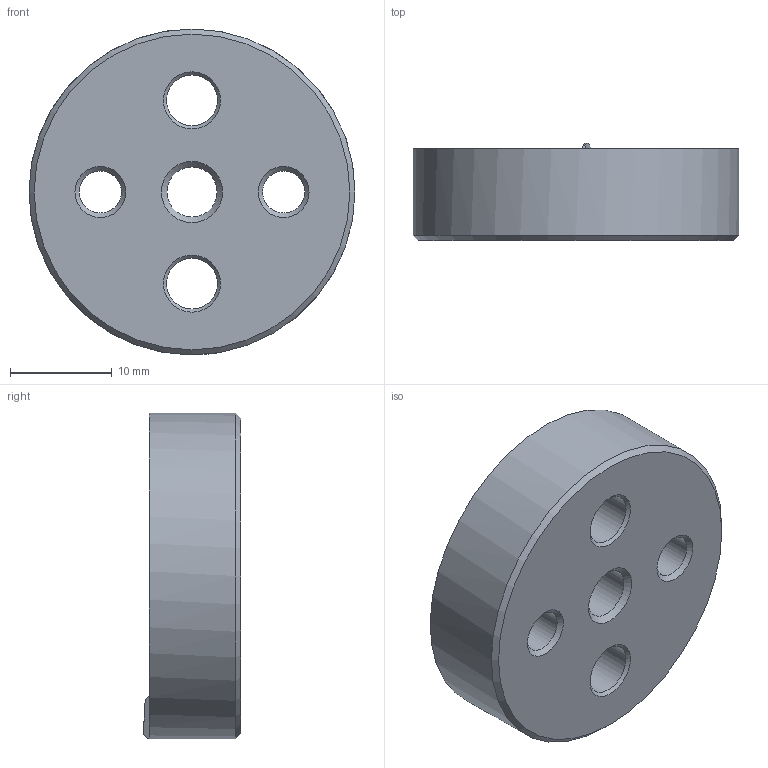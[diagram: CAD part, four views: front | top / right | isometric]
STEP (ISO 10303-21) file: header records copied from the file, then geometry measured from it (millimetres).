
FILE_DESCRIPTION( ( 'STEP AP203' ), '1' );
FILE_NAME( 'C:/Temp/Ganter_Step_05_03_2020/data/3_2/gn187_4/gn187_4_st/Serrated locking plate GN 187.4-32-48-C-ST.stp', '2020-03-13T05:25:43', ( 'License CC BY-ND 4.0' ), ( 'CADENAS' ), ' ', 'PARTsolutions', ' ' );
FILE_SCHEMA( ( 'CONFIG_CONTROL_DESIGN' ) );
Length unit declared in the file: millimetre
Products named in the file (1): _Serrated locking plate GN 187.4-32-48-C-ST
Bounding box: 32 x 9.57 x 32 mm (x, y, z)
Volume: 6096.4 mm3; surface area: 2946.6 mm2
Topology: 1 solids, 1 shells, 31 faces, 77 edges, 48 vertices
Faces by surface type: cone 15, cylinder 9, plane 7
Full cylindrical faces by diameter (mm): 4.134 x2, 4.917 x1, 5 x2, 23.5 x1, 32 x1
Entity records: 960 total; most frequent: CARTESIAN_POINT 241, DIRECTION 146, ORIENTED_EDGE 112, AXIS2_PLACEMENT_3D 70, EDGE_LOOP 59, EDGE_CURVE 56, VERTEX_POINT 45, FACE_OUTER_BOUND 38
